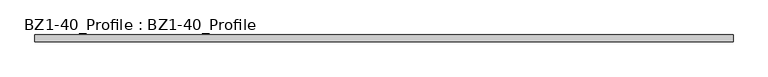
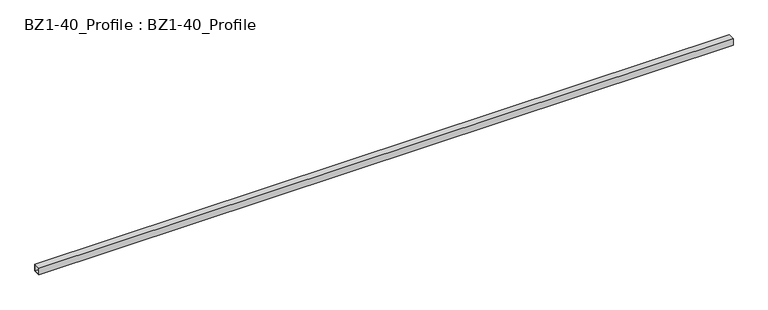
"""IFC4 building model written with IfcOpenShell, lengths in millimetres: beam geometry, BZ1-40_Profile : BZ1-40_Profile."""

from ifc_helpers import new_model, si_unit, frame, origin, place, context, project, spatial, polyline, outline, extrude, source, transform, mapped, element, save


def bz1_40_profile_bz1_40_profile_67b9773f(model_context):
    return source(origin(), model_context, "Body", "SweptSolid", [
        extrude(outline(polyline([(-20.0, 20.0), (20.0, 20.0), (20.0, -20.0), (-20.0, -20.0), (-20.0, 20.0)]), holes=[polyline([(-16.0, 16.0), (-16.0, -16.0), (16.0, -16.0), (16.0, 16.0), (-16.0, 16.0)])]), frame((-2037.6671988, 0.0, 0.0), z_axis=(1.0, 0.0, 0.0), x_axis=(0.0, 1.0, 0.0)), (0.0, 0.0, 1.0), 4075.3343977),
    ])


if __name__ == "__main__":
    model = new_model("IFC4")
    model_context = context("Model", 3, world=origin())
    ifc_project = project(units=[si_unit("LENGTHUNIT", "METRE", prefix="MILLI")], contexts=[model_context])
    site = spatial("IfcSite", under=ifc_project)
    building = spatial("IfcBuilding", under=site)
    placement = place(None, origin())
    bz1_40_profile_bz1_40_profile_shape = bz1_40_profile_bz1_40_profile_67b9773f(model_context)
    element("IfcBeam", 1, ObjectType="BZ1-40_Profile : BZ1-40_Profile", at=placement, inside=building, context=model_context, shape_type="MappedRepresentation", body=[
        mapped(bz1_40_profile_bz1_40_profile_shape, transform((0.0, 0.0, 0.0), x_axis=(1.0, 0.0, 0.0), y_axis=(0.0, 1.0, 0.0), z_axis=(0.0, 0.0, 1.0))),
    ])
    save(model, "model.ifc")
